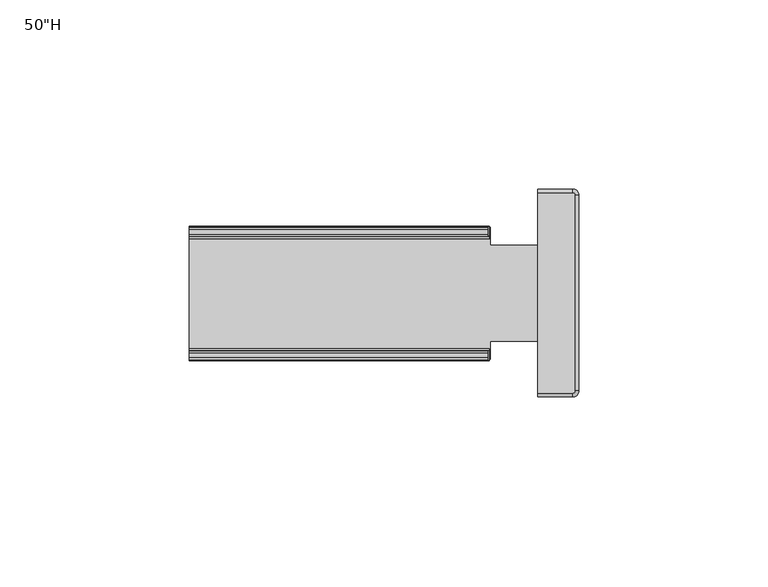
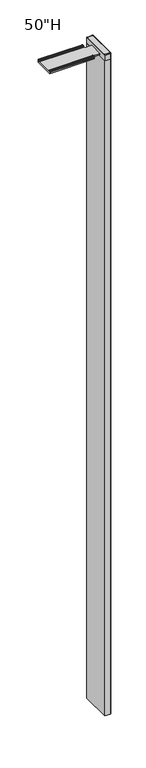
"""IFC4 building model written with IfcOpenShell, lengths in millimetres: furniture geometry."""

from ifc_helpers import new_model, si_unit, point, frame, frame_2d, origin, place, context, project, spatial, polyline, circle_curve, ellipse_curve, trimmed, segment, composite_curve, outline, extrude, source, transform, mapped, element, save
from ifc_brep_helpers import plane_surface, cylinder_surface, revolved_surface, advanced_brep


def furniture_41d6ddbd(model_context):
    return source(origin(), model_context, "Body", "SolidModel", [
        advanced_brep(
        [(-0.3869079, 15.4628389, 1249.461525), (-0.3869079, 40.8628386, 1249.461525), (-0.3869079, 40.8628386, 1252.0015589), (-0.3869079, 15.4628389, 1252.0015589), (-92.4901439, 10.8019384, 1249.461525), (-92.4901439, 10.8019384, 1251.5085368), (-92.4901439, 10.5540846, 1252.2971692), (-92.4901439, 10.3840202, 1253.0676492), (-92.4901439, 10.6358677, 1254.4959476), (-92.4901439, 11.2117125, 1254.9791388), (-92.4901439, 12.4957455, 1254.9791388), (-92.4901439, 13.0541144, 1254.4399285), (-92.4901439, 13.120523, 1252.5382601), (-92.4901439, 13.6762936, 1252.0015589), (-92.4901439, 42.6432202, 1252.0015589), (-92.4901439, 43.2053729, 1252.5444234), (-92.4901439, 43.2731504, 1254.4853155), (-92.4901439, 43.7845193, 1254.9791388), (-92.4901439, 45.1356767, 1254.9791388), (-92.4901439, 45.6898611, 1254.4973936), (-92.4901439, 45.9005867, 1252.9980027), (-92.4901439, 45.7440304, 1252.2110117), (-92.4901439, 45.5237368, 1251.4030388), (-92.4901439, 45.5237368, 1249.461525), (-12.9180446, 45.5237368, 1249.461525), (-12.9180446, 40.8628386, 1249.461525), (-12.9227259, 15.4628389, 1249.461525), (-12.9227259, 10.8019384, 1249.461525), (-12.9180446, 45.5237368, 1251.4030388), (-13.1238401, 45.7440304, 1252.2110117), (-13.0869079, 45.6405409, 1252.0015589), (-12.9180446, 45.6405409, 1252.0015589), (-13.2626078, 45.9005867, 1252.9980027), (-13.5269909, 45.6898611, 1254.4973936), (-13.6119355, 45.1356767, 1254.9791388), (-13.6119355, 43.7845193, 1254.9791388), (-13.5248612, 43.2731504, 1254.4853155), (-13.1826295, 43.2053729, 1252.5444234), (-13.0869079, 42.6432202, 1252.0015589), (-13.0869079, 13.6762936, 1252.0015589), (-13.0869079, 10.7107635, 1252.0015589), (-12.9227259, 10.7107635, 1252.0015589), (-12.9227259, 15.4628389, 1252.0015589), (-12.9180446, 40.8628386, 1252.0015589), (-13.1815428, 13.120523, 1252.5382601), (-13.5168582, 13.0541144, 1254.4399285), (-13.6119355, 12.4957455, 1254.9791388), (-13.6119355, 11.2117125, 1254.9791388), (-13.5267359, 10.6358677, 1254.4959476), (-13.2748884, 10.3840202, 1253.0676492), (-13.1390319, 10.5540846, 1252.2971692), (-12.9227259, 10.8019384, 1251.5085368)],
        [
            (0, 1),
            (1, 2),
            (2, 3),
            (3, 0),
            (4, 5),
            (5, 6, circle_curve(frame((-92.4901439, 9.4233584, 1251.5085368), z_axis=(1.0, 0.0, 0.0), x_axis=(0.0, 1.0, 0.0)), 1.37858)),
            (6, 7, circle_curve(frame((-92.4901439, 11.4015407, 1252.8882329), z_axis=(-1.0, 0.0, 0.0), x_axis=(0.0, 1.0, 0.0)), 1.0332174)),
            (7, 8),
            (8, 9, circle_curve(frame((-92.4901439, 11.2117125, 1254.3944106), z_axis=(-1.0, 0.0, 0.0), x_axis=(0.0, 1.0, 0.0)), 0.5847281)),
            (9, 10),
            (10, 11, circle_curve(frame((-92.4901439, 12.4957455, 1254.4204296), z_axis=(-1.0, 0.0, 0.0), x_axis=(0.0, 1.0, 0.0)), 0.5587092)),
            (11, 12),
            (12, 13, circle_curve(frame((-92.4901439, 13.6762936, 1252.5576683), z_axis=(1.0, 0.0, 0.0), x_axis=(0.0, 1.0, 0.0)), 0.5561094)),
            (13, 14),
            (14, 15, circle_curve(frame((-92.4901439, 42.6432202, 1252.5640542), z_axis=(1.0, 0.0, 0.0), x_axis=(0.0, 1.0, 0.0)), 0.5624954)),
            (15, 16),
            (16, 17, circle_curve(frame((-92.4901439, 43.7845193, 1254.4674581), z_axis=(-1.0, 0.0, 0.0), x_axis=(0.0, 1.0, 0.0)), 0.5116807)),
            (17, 18),
            (18, 19, circle_curve(frame((-92.4901439, 45.1356767, 1254.4195081), z_axis=(-1.0, 0.0, 0.0), x_axis=(0.0, 1.0, 0.0)), 0.5596307)),
            (19, 20),
            (20, 21, circle_curve(frame((-92.4901439, 44.6955727, 1252.828649), z_axis=(-1.0, 0.0, 0.0), x_axis=(0.0, 1.0, 0.0)), 1.2168564)),
            (21, 22, circle_curve(frame((-92.4901439, 47.1155885, 1251.4030388), z_axis=(1.0, 0.0, 0.0), x_axis=(0.0, 1.0, 0.0)), 1.5918516)),
            (22, 23),
            (23, 4),
            (23, 24),
            (24, 25),
            (25, 1),
            (0, 26),
            (26, 27),
            (27, 4),
            (22, 28),
            (28, 24),
            (21, 29),
            (29, 30, ellipse_curve(frame((-12.9813726, 47.1155885, 1251.4030388), z_axis=(0.9848077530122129, 0.0, 0.17364817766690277), x_axis=(-0.1736481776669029, 0.0, 0.9848077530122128)), 1.6164085, 1.5918516)),
            (30, 31),
            (31, 28, circle_curve(frame((-12.9180446, 47.1155885, 1251.4030388), z_axis=(1.0, 0.0, 0.0), x_axis=(0.0, 1.0, 0.0)), 1.5918516)),
            (20, 32),
            (32, 29, ellipse_curve(frame((-13.2327462, 44.6955727, 1252.828649), z_axis=(-0.9848077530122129, 0.0, -0.17364817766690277), x_axis=(0.1736481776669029, 0.0, -0.9848077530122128)), 1.2356284, 1.2168564)),
            (19, 33),
            (33, 32),
            (18, 34),
            (34, 33, ellipse_curve(frame((-13.5132576, 45.1356767, 1254.4195081), z_axis=(-0.9848077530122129, 0.0, -0.17364817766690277), x_axis=(0.1736481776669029, 0.0, -0.9848077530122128)), 0.5682639, 0.5596307)),
            (17, 35),
            (35, 34),
            (16, 36),
            (36, 35, ellipse_curve(frame((-13.5217124, 43.7845193, 1254.4674581), z_axis=(-0.9848077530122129, 0.0, -0.17364817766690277), x_axis=(0.1736481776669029, 0.0, -0.9848077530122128)), 0.5195742, 0.5116807)),
            (15, 37),
            (37, 36),
            (14, 38),
            (38, 37, ellipse_curve(frame((-13.186091, 42.6432202, 1252.5640542), z_axis=(0.9848077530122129, 0.0, 0.17364817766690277), x_axis=(-0.1736481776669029, 0.0, 0.9848077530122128)), 0.5711728, 0.5624954)),
            (13, 39),
            (39, 40),
            (40, 41),
            (41, 42),
            (42, 3),
            (2, 43),
            (43, 31),
            (30, 38),
            (12, 44),
            (44, 39, ellipse_curve(frame((-13.184965, 13.6762936, 1252.5576683), z_axis=(0.9848077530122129, 0.0, 0.17364817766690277), x_axis=(-0.1736481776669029, 0.0, 0.9848077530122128)), 0.5646883, 0.5561094)),
            (11, 45),
            (45, 44),
            (10, 46),
            (46, 45, ellipse_curve(frame((-13.51342, 12.4957455, 1254.4204296), z_axis=(-0.9848077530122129, 0.0, -0.17364817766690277), x_axis=(0.1736481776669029, 0.0, -0.9848077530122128)), 0.5673282, 0.5587092)),
            (9, 47),
            (47, 46),
            (8, 48),
            (48, 47, ellipse_curve(frame((-13.5088322, 11.2117125, 1254.3944106), z_axis=(-0.9848077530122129, 0.0, -0.17364817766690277), x_axis=(0.1736481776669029, 0.0, -0.9848077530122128)), 0.5937485, 0.5847281)),
            (7, 49),
            (49, 48),
            (6, 50),
            (50, 49, ellipse_curve(frame((-13.2432524, 11.4015407, 1252.8882329), z_axis=(-0.9848077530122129, 0.0, -0.17364817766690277), x_axis=(0.1736481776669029, 0.0, -0.9848077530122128)), 1.0491564, 1.0332174)),
            (5, 51),
            (51, 41, circle_curve(frame((-12.9227259, 9.4233584, 1251.5085368), z_axis=(1.0, 0.0, 0.0), x_axis=(0.0, 1.0, 0.0)), 1.37858)),
            (40, 50, ellipse_curve(frame((-12.9999748, 9.4233584, 1251.5085368), z_axis=(0.9848077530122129, 0.0, 0.17364817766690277), x_axis=(-0.1736481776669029, 0.0, 0.9848077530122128)), 1.3998468, 1.37858)),
            (27, 51),
            (43, 25),
            (42, 26),
        ],
        [
            plane_surface(frame((-0.3869079, 45.5237368, 1249.461525), z_axis=(1.0, 0.0, 0.0), x_axis=(0.0, 1.0, 0.0))),
            plane_surface(frame((-92.4901439, 45.5237368, 1249.461525), z_axis=(-1.0, 0.0, 0.0), x_axis=(0.0, -1.0, 0.0))),
            plane_surface(frame((-0.3869079, 10.8019384, 1249.461525), z_axis=(0.0, 0.0, -1.0), x_axis=(-1.0, 0.0, 0.0))),
            plane_surface(frame((-0.3869079, 45.5237368, 1249.461525), z_axis=(0.0, 1.0, 0.0), x_axis=(-1.0, 0.0, 0.0))),
            revolved_surface(polyline([(-92.4901439, 48.7074401, 1251.4030388), (-12.700686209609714, 48.7074401, 1251.4030388)]), (-92.4901439, 47.1155885, 1251.4030388), (-1.0, 0.0, 0.0)),
            cylinder_surface(frame((-92.4901439, 44.6955727, 1252.828649), z_axis=(1.0, 0.0, 0.0), x_axis=(0.0, 1.0, 0.0)), 1.2168564),
            plane_surface(frame((-0.3869079, 45.9005867, 1252.9980027), z_axis=(0.0, 0.9902680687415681, 0.13917310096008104), x_axis=(-1.0, 0.0, 0.0))),
            cylinder_surface(frame((-92.4901439, 45.1356767, 1254.4195081), z_axis=(1.0, 0.0, 0.0), x_axis=(0.0, 1.0, 0.0)), 0.5596307),
            plane_surface(frame((-0.3869079, 45.1356767, 1254.9791388), z_axis=(0.0, 0.0, 1.0), x_axis=(-1.0, 0.0, 0.0))),
            cylinder_surface(frame((-92.4901439, 43.7845193, 1254.4674581), z_axis=(1.0, 0.0, 0.0), x_axis=(0.0, 1.0, 0.0)), 0.5116807),
            plane_surface(frame((-0.3869079, 43.2731504, 1254.4853155), z_axis=(0.0, -0.9993908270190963, 0.03489949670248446), x_axis=(-1.0, 0.0, 0.0))),
            revolved_surface(polyline([(-92.4901439, 43.205715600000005, 1252.5640542), (-13.086907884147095, 43.205715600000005, 1252.5640542)]), (-92.4901439, 42.6432202, 1252.5640542), (-1.0, 0.0, 0.0)),
            plane_surface(frame((-0.3869079, 42.6432202, 1252.0015589), z_axis=(0.0, 0.0, 1.0), x_axis=(-1.0, 0.0, 0.0))),
            revolved_surface(polyline([(-92.4901439, 14.232403, 1252.5576683), (-13.0869079, 14.232403, 1252.5576683)]), (-92.4901439, 13.6762936, 1252.5576683), (-1.0, 0.0, 0.0)),
            plane_surface(frame((-0.3869079, 13.120523, 1252.5382601), z_axis=(0.0, 0.999390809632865, 0.03489999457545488), x_axis=(-1.0, 0.0, 0.0))),
            cylinder_surface(frame((-92.4901439, 12.4957455, 1254.4204296), z_axis=(1.0, 0.0, 0.0), x_axis=(0.0, 1.0, 0.0)), 0.5587092),
            plane_surface(frame((-0.3869079, 12.4957455, 1254.9791388), z_axis=(0.0, 0.0, 1.0), x_axis=(-1.0, 0.0, 0.0))),
            cylinder_surface(frame((-92.4901439, 11.2117125, 1254.3944106), z_axis=(1.0, 0.0, 0.0), x_axis=(0.0, 1.0, 0.0)), 0.5847281),
            plane_surface(frame((-0.3869079, 10.6358677, 1254.4959476), z_axis=(0.0, -0.9848077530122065, 0.1736481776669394), x_axis=(-1.0, 0.0, 0.0))),
            cylinder_surface(frame((-92.4901439, 11.4015407, 1252.8882329), z_axis=(1.0, 0.0, 0.0), x_axis=(0.0, 1.0, 0.0)), 1.0332174),
            revolved_surface(polyline([(-92.4901439, 10.8019384, 1251.5085368), (-12.756893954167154, 10.8019384, 1251.5085368)]), (-92.4901439, 9.4233584, 1251.5085368), (-1.0, 0.0, 0.0)),
            plane_surface(frame((-0.3869079, 10.8019384, 1251.5085368), z_axis=(0.0, -1.0, 0.0), x_axis=(-1.0, 0.0, 0.0))),
            plane_surface(frame((-14.1549775, -5.0088925, 1258.058883), z_axis=(0.9848077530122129, 0.0, 0.17364817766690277), x_axis=(0.0, 1.0, 0.0))),
            plane_surface(frame((-12.9180446, 48.8007694, 1537.2597227), z_axis=(1.0, 0.0, 0.0), x_axis=(0.0, 0.0, -1.0))),
            plane_surface(frame((-12.9180446, 40.8628386, 1537.2597227), z_axis=(0.0, 1.0, 0.0), x_axis=(0.0, 0.0, -1.0))),
            plane_surface(frame((1.3881006, 15.4628389, 1537.2597227), z_axis=(0.0, -1.0, 0.0), x_axis=(0.0, 0.0, -1.0))),
            plane_surface(frame((-12.9227259, 15.4628389, 1537.2597227), z_axis=(1.0, 0.0, 0.0), x_axis=(0.0, 0.0, -1.0))),
        ],
        [
            (0, [[1, 2, 3, 4]]),
            (1, [[5, 6, 7, 8, 9, 10, 11, 12, 13, 14, 15, 16, 17, 18, 19, 20, 21, 22, 23, 24]]),
            (2, [[-24, 25, 26, 27, -1, 28, 29, 30]]),
            (3, [[-23, 31, 32, -25]]),
            (4, [[-22, 33, 34, 35, 36, -31]]),
            (5, [[-21, 37, 38, -33]]),
            (6, [[-20, 39, 40, -37]]),
            (7, [[-19, 41, 42, -39]]),
            (8, [[-18, 43, 44, -41]]),
            (9, [[-17, 45, 46, -43]]),
            (10, [[-16, 47, 48, -45]]),
            (11, [[-15, 49, 50, -47]]),
            (12, [[-14, 51, 52, 53, 54, 55, -3, 56, 57, -35, 58, -49]]),
            (13, [[-13, 59, 60, -51]]),
            (14, [[-12, 61, 62, -59]]),
            (15, [[-11, 63, 64, -61]]),
            (16, [[-10, 65, 66, -63]]),
            (17, [[-9, 67, 68, -65]]),
            (18, [[-8, 69, 70, -67]]),
            (19, [[-7, 71, 72, -69]]),
            (20, [[-6, 73, 74, -53, 75, -71]]),
            (21, [[-5, -30, 76, -73]]),
            (22, [[-52, -60, -62, -64, -66, -68, -70, -72, -75]]),
            (22, [[-58, -34, -38, -40, -42, -44, -46, -48, -50]]),
            (23, [[77, -26, -32, -36, -57]]),
            (24, [[-77, -56, -2, -27]]),
            (25, [[78, -28, -4, -55]]),
            (26, [[-78, -54, -74, -76, -29]]),
        ],
    ),
        extrude(outline(composite_curve([segment(trimmed(circle_curve(frame_2d((8.9475923, 54.127071)), 0.564234), [point((8.9475923, 54.691305))], [point((9.5118263, 54.127071))], False, "CARTESIAN"), True, "CONTINUOUS"), segment(polyline([(9.5118263, 54.127071), (9.5118263, 2.38125)]), True, "CONTINUOUS"), segment(trimmed(circle_curve(frame_2d((8.9475923, 2.38125)), 0.564234), [point((9.5118263, 2.38125))], [point((8.9475923, 1.817016))], False, "CARTESIAN"), True, "CONTINUOUS"), segment(polyline([(8.9475923, 1.817016), (-0.3869079, 1.817016), (-0.3869079, 54.691305), (8.9475923, 54.691305)]), True, "CONTINUOUS")], self_intersect=False)), frame((0.0, 0.0, 1257.5857505), z_axis=(0.0, 0.0, 1.0), x_axis=(1.0, 0.0, 0.0)), (0.0, 0.0, 1.0), 1.023266),
        advanced_brep(
        [(9.5118263, 2.38125, 1258.6090165), (8.9475923, 1.817016, 1258.6090165), (8.9475923, 0.79375, 1257.5857505), (10.5350923, 2.38125, 1257.5857505), (10.5350923, 54.127071, 1257.5857505), (9.5118263, 54.127071, 1258.6090165), (8.9475923, 54.691305, 1258.6090165), (8.9475923, 55.714571, 1257.5857505), (-0.3869079, 55.714571, 1257.5857505), (-0.3869079, 54.691305, 1258.6090165), (-0.3869079, 54.691305, 1257.5857505), (-0.3869079, 0.79375, 1257.5857505), (-0.3869079, 1.817016, 1257.5857505), (8.9475923, 1.817016, 1257.5857505), (9.5118263, 2.38125, 1257.5857505), (9.5118263, 54.127071, 1257.5857505), (8.9475923, 54.691305, 1257.5857505), (-0.3869079, 1.817016, 1258.6090165)],
        [
            (0, 1, circle_curve(frame((8.9475923, 2.38125, 1258.6090165), z_axis=(0.0, 0.0, -1.0), x_axis=(0.0, -1.0, 0.0)), 0.564234)),
            (1, 2, circle_curve(frame((8.9475923, 1.817016, 1257.5857505), z_axis=(1.0, 0.0, 0.0), x_axis=(0.0, 1.0, 0.0)), 1.023266)),
            (2, 3, circle_curve(frame((8.9475923, 2.38125, 1257.5857505), z_axis=(0.0, 0.0, 1.0), x_axis=(0.0, -1.0, 0.0)), 1.5875)),
            (3, 0, circle_curve(frame((9.5118263, 2.38125, 1257.5857505), z_axis=(0.0, -1.0, 0.0), x_axis=(-1.0, 0.0, 0.0)), 1.023266)),
            (3, 4),
            (4, 5, circle_curve(frame((9.5118263, 54.127071, 1257.5857505), z_axis=(0.0, -1.0, 0.0), x_axis=(-1.0, 0.0, 0.0)), 1.023266)),
            (5, 0),
            (6, 5, circle_curve(frame((8.9475923, 54.127071, 1258.6090165), z_axis=(0.0, 0.0, -1.0), x_axis=(1.0, 0.0, 0.0)), 0.564234)),
            (4, 7, circle_curve(frame((8.9475923, 54.127071, 1257.5857505), z_axis=(0.0, 0.0, 1.0), x_axis=(1.0, 0.0, 0.0)), 1.5875)),
            (7, 6, circle_curve(frame((8.9475923, 54.691305, 1257.5857505), z_axis=(1.0, 0.0, 0.0), x_axis=(0.0, -1.0, 0.0)), 1.023266)),
            (7, 8),
            (8, 9, circle_curve(frame((-0.3869079, 54.691305, 1257.5857505), z_axis=(1.0, 0.0, 0.0), x_axis=(0.0, -1.0, 0.0)), 1.023266)),
            (9, 6),
            (8, 10),
            (10, 9),
            (11, 12),
            (12, 13),
            (13, 14, circle_curve(frame((8.9475923, 2.38125, 1257.5857505), z_axis=(0.0, 0.0, 1.0), x_axis=(0.0, -1.0, 0.0)), 0.564234)),
            (14, 15),
            (15, 16, circle_curve(frame((8.9475923, 54.127071, 1257.5857505), z_axis=(0.0, 0.0, 1.0), x_axis=(1.0, 0.0, 0.0)), 0.564234)),
            (16, 10),
            (2, 11),
            (17, 11, circle_curve(frame((-0.3869079, 1.817016, 1257.5857505), z_axis=(1.0, 0.0, 0.0), x_axis=(0.0, 1.0, 0.0)), 1.023266)),
            (1, 17),
            (13, 1),
            (0, 14),
            (5, 15),
            (6, 16),
            (12, 17),
        ],
        [
            revolved_surface(trimmed(ellipse_curve(frame((8.9475923, 1.817016, 1257.5857505), z_axis=(-1.0, 0.0, 0.0), x_axis=(0.0, 1.0, 0.0)), 1.023266, 1.023266), [point((8.9475923, 0.79375, 1257.5857505))], [point((8.9475923, 1.817016, 1258.6090165))], True, "CARTESIAN"), (8.9475923, 2.38125, 1257.5857505), (0.0, 0.0, 1.0)),
            cylinder_surface(frame((9.5118263, 2.38125, 1257.5857505), z_axis=(0.0, -1.0, 0.0), x_axis=(-1.0, 0.0, 0.0)), 1.023266),
            revolved_surface(trimmed(ellipse_curve(frame((9.5118263, 54.127071, 1257.5857505), z_axis=(0.0, -1.0, 0.0), x_axis=(-1.0, 0.0, 0.0)), 1.023266, 1.023266), [point((10.5350923, 54.127071, 1257.5857505))], [point((9.5118263, 54.127071, 1258.6090165))], True, "CARTESIAN"), (8.9475923, 54.127071, 1257.5857505), (0.0, 0.0, 1.0)),
            cylinder_surface(frame((8.9475923, 54.691305, 1257.5857505), z_axis=(1.0, 0.0, 0.0), x_axis=(0.0, -1.0, 0.0)), 1.023266),
            plane_surface(frame((-0.3869079, 55.714571, 1257.5857505), z_axis=(-1.0, 0.0, 0.0), x_axis=(0.0, 0.0, 1.0))),
            plane_surface(frame((-0.3869079, 1.817016, 1257.5857505), z_axis=(0.0, 0.0, -1.0), x_axis=(1.0, 0.0, 0.0))),
            cylinder_surface(frame((-0.3869079, 1.817016, 1257.5857505), z_axis=(-1.0, 0.0, 0.0), x_axis=(0.0, 1.0, 0.0)), 1.023266),
            revolved_surface(polyline([(8.9475923, 1.8170160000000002, 1258.6090165), (8.9475923, 1.8170160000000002, 1257.5857505)]), (8.9475923, 2.38125, 1257.5857505), (0.0, 0.0, 1.0)),
            plane_surface(frame((9.5118263, 2.38125, 1258.6090165), z_axis=(-1.0, 0.0, 0.0), x_axis=(0.0, 1.0, 0.0))),
            revolved_surface(polyline([(9.511826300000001, 54.127071, 1258.6090165), (9.511826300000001, 54.127071, 1257.5857505)]), (8.9475923, 54.127071, 1257.5857505), (0.0, 0.0, 1.0)),
            plane_surface(frame((8.9475923, 54.691305, 1258.6090165), z_axis=(0.0, -1.0, 0.0), x_axis=(-1.0, 0.0, 0.0))),
            plane_surface(frame((-0.3869079, 1.817016, 1258.6090165), z_axis=(0.0, 1.0, 0.0), x_axis=(1.0, 0.0, 0.0))),
            plane_surface(frame((-0.3869079, 0.79375, 1257.5857505), z_axis=(-1.0, 0.0, 0.0), x_axis=(0.0, 0.0, 1.0))),
        ],
        [
            (0, [[1, 2, 3, 4]]),
            (1, [[-4, 5, 6, 7]]),
            (2, [[8, -6, 9, 10]]),
            (3, [[-10, 11, 12, 13]]),
            (4, [[-12, 14, 15]]),
            (5, [[16, 17, 18, 19, 20, 21, -14, -11, -9, -5, -3, 22]]),
            (6, [[23, -22, -2, 24]]),
            (7, [[-18, 25, -1, 26]]),
            (8, [[-26, -7, 27, -19]]),
            (9, [[-20, -27, -8, 28]]),
            (10, [[-28, -13, -15, -21]]),
            (11, [[29, -24, -25, -17]]),
            (12, [[-29, -16, -23]]),
        ],
    ),
        extrude(outline(composite_curve([segment(trimmed(circle_curve(frame_2d((8.9475923, 54.127071)), 1.5875), [point((8.9475923, 55.714571))], [point((10.5350923, 54.127071))], False, "CARTESIAN"), True, "CONTINUOUS"), segment(polyline([(10.5350923, 54.127071), (10.5350923, 2.38125)]), True, "CONTINUOUS"), segment(trimmed(circle_curve(frame_2d((8.9475923, 2.38125)), 1.5875), [point((10.5350923, 2.38125))], [point((8.9475923, 0.79375))], False, "CARTESIAN"), True, "CONTINUOUS"), segment(polyline([(8.9475923, 0.79375), (-0.3869079, 0.79375), (-0.3869079, 55.714571), (8.9475923, 55.714571)]), True, "CONTINUOUS")], self_intersect=False)), frame((0.0, 0.0, 1246.98125), z_axis=(0.0, 0.0, 1.0), x_axis=(1.0, 0.0, 0.0)), (0.0, 0.0, 1.0), 10.6045005),
        extrude(outline(composite_curve([segment(polyline([(-0.3869079, 0.79375), (-0.3869079, 55.714571), (8.9475923, 55.714571)]), True, "CONTINUOUS"), segment(trimmed(circle_curve(frame_2d((8.9475923, 54.127071)), 1.5875), [point((8.9475923, 55.714571))], [point((10.5350923, 54.127071))], False, "CARTESIAN"), True, "CONTINUOUS"), segment(polyline([(10.5350923, 54.127071), (10.5350923, 2.38125)]), True, "CONTINUOUS"), segment(trimmed(circle_curve(frame_2d((8.9475923, 2.38125)), 1.5875), [point((10.5350923, 2.38125))], [point((8.9475923, 0.79375))], False, "CARTESIAN"), True, "CONTINUOUS"), segment(polyline([(8.9475923, 0.79375), (-0.3869079, 0.79375)]), True, "CONTINUOUS")], self_intersect=False)), frame((0.0, 0.0, 19.84375), z_axis=(0.0, 0.0, 1.0), x_axis=(1.0, 0.0, 0.0)), (0.0, 0.0, 1.0), 1227.1375),
    ])


if __name__ == "__main__":
    model = new_model("IFC4")
    model_context = context("Model", 3, world=origin())
    ifc_project = project(units=[si_unit("LENGTHUNIT", "METRE", prefix="MILLI")], contexts=[model_context])
    site = spatial("IfcSite", under=ifc_project)
    building = spatial("IfcBuilding", under=site)
    placement = place(None, origin())
    furniture_shape = furniture_41d6ddbd(model_context)
    element("IfcFurniture", 1, ObjectType="HON - Accelerate - Connector - Finished End Cover : 50\"H", at=placement, inside=building, context=model_context, shape_type="MappedRepresentation", body=[
        mapped(furniture_shape, transform((0.0, 0.0, 0.0), x_axis=(1.0, 0.0, 0.0), y_axis=(0.0, 1.0, 0.0), z_axis=(0.0, 0.0, 1.0))),
    ])
    save(model, "model.ifc")
